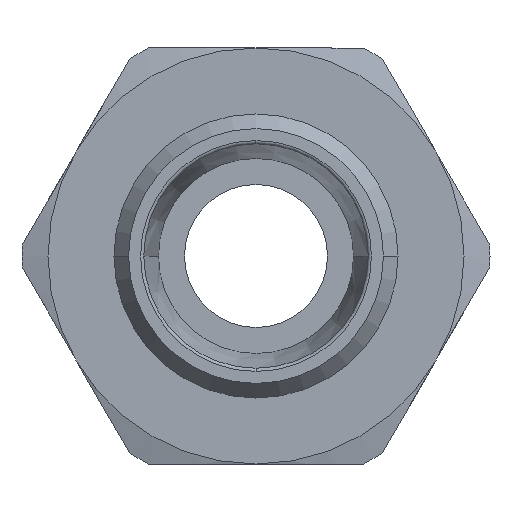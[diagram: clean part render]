
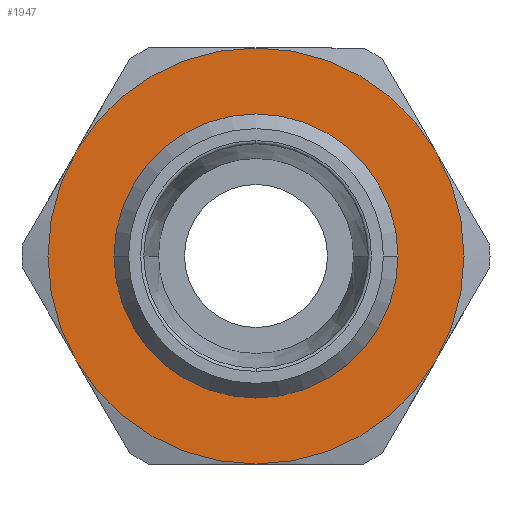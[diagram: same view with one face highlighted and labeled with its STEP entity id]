
A CAD part, left-side view. The second image highlights one B-rep face of the part: STEP entity #1947.
In plain terms, the highlighted planar face has unit normal (-1, 0, 0) as drawn and (0, 0, 1) by its records, which use the part's own axes.
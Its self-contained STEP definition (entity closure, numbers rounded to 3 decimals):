
#857=CARTESIAN_POINT('',(-10.8,0.,3.5));
#858=VERTEX_POINT('',#857);
#884=CARTESIAN_POINT('',(10.8,0.,3.5));
#885=VERTEX_POINT('',#884);
#893=CARTESIAN_POINT('',(0.,0.,3.5));
#894=DIRECTION('',(0.0,0.0,1.0));
#895=DIRECTION('',(-1.0,0.0,0.0));
#896=AXIS2_PLACEMENT_3D('',#893,#894,#895);
#897=CIRCLE('',#896,10.8);
#898=EDGE_CURVE('',#885,#858,#897,.T.);
#1827=CARTESIAN_POINT('',(0.,-10.8,3.5));
#1828=VERTEX_POINT('',#1827);
#1829=CARTESIAN_POINT('',(0.,0.,3.5));
#1830=DIRECTION('',(0.0,0.0,1.0));
#1831=DIRECTION('',(-1.0,0.0,0.0));
#1832=AXIS2_PLACEMENT_3D('',#1829,#1830,#1831);
#1833=CIRCLE('',#1832,10.8);
#1834=EDGE_CURVE('',#858,#1828,#1833,.T.);
#1836=CARTESIAN_POINT('',(0.,0.,3.5));
#1837=DIRECTION('',(0.0,0.0,1.0));
#1838=DIRECTION('',(-1.0,0.0,0.0));
#1839=AXIS2_PLACEMENT_3D('',#1836,#1837,#1838);
#1840=CIRCLE('',#1839,10.8);
#1841=EDGE_CURVE('',#1828,#885,#1840,.T.);
#1881=CARTESIAN_POINT('',(0.0,0.,3.5));
#1882=DIRECTION('',(0.0,0.0,1.0));
#1883=DIRECTION('',(1.0,0.0,0.0));
#1884=AXIS2_PLACEMENT_3D('',#1881,#1882,#1883);
#1885=PLANE('',#1884);
#1886=CARTESIAN_POINT('',(8.,-13.856,3.5));
#1887=VERTEX_POINT('',#1886);
#1888=CARTESIAN_POINT('',(16.,0.0,3.5));
#1889=VERTEX_POINT('',#1888);
#1890=CARTESIAN_POINT('',(0.,0.0,3.5));
#1891=DIRECTION('',(0.0,0.0,1.0));
#1892=DIRECTION('',(1.0,0.0,0.0));
#1893=AXIS2_PLACEMENT_3D('',#1890,#1891,#1892);
#1894=CIRCLE('',#1893,16.0);
#1895=EDGE_CURVE('',#1887,#1889,#1894,.T.);
#1896=ORIENTED_EDGE('',*,*,#1895,.T.);
#1897=CARTESIAN_POINT('',(8.,13.856,3.5));
#1898=VERTEX_POINT('',#1897);
#1899=CARTESIAN_POINT('',(0.,0.0,3.5));
#1900=DIRECTION('',(0.0,0.0,1.0));
#1901=DIRECTION('',(1.0,0.0,0.0));
#1902=AXIS2_PLACEMENT_3D('',#1899,#1900,#1901);
#1903=CIRCLE('',#1902,16.0);
#1904=EDGE_CURVE('',#1889,#1898,#1903,.T.);
#1905=ORIENTED_EDGE('',*,*,#1904,.T.);
#1906=CARTESIAN_POINT('',(-8.,13.856,3.5));
#1907=VERTEX_POINT('',#1906);
#1908=CARTESIAN_POINT('',(0.,0.0,3.5));
#1909=DIRECTION('',(0.0,0.0,1.0));
#1910=DIRECTION('',(1.0,0.0,0.0));
#1911=AXIS2_PLACEMENT_3D('',#1908,#1909,#1910);
#1912=CIRCLE('',#1911,16.0);
#1913=EDGE_CURVE('',#1898,#1907,#1912,.T.);
#1914=ORIENTED_EDGE('',*,*,#1913,.T.);
#1915=CARTESIAN_POINT('',(-16.0,0.,3.5));
#1916=VERTEX_POINT('',#1915);
#1917=CARTESIAN_POINT('',(0.,0.0,3.5));
#1918=DIRECTION('',(0.0,0.0,1.0));
#1919=DIRECTION('',(1.0,0.0,0.0));
#1920=AXIS2_PLACEMENT_3D('',#1917,#1918,#1919);
#1921=CIRCLE('',#1920,16.0);
#1922=EDGE_CURVE('',#1907,#1916,#1921,.T.);
#1923=ORIENTED_EDGE('',*,*,#1922,.T.);
#1924=CARTESIAN_POINT('',(-8.0,-13.856,3.5));
#1925=VERTEX_POINT('',#1924);
#1926=CARTESIAN_POINT('',(0.,0.0,3.5));
#1927=DIRECTION('',(0.0,0.0,1.0));
#1928=DIRECTION('',(1.0,0.0,0.0));
#1929=AXIS2_PLACEMENT_3D('',#1926,#1927,#1928);
#1930=CIRCLE('',#1929,16.0);
#1931=EDGE_CURVE('',#1916,#1925,#1930,.T.);
#1932=ORIENTED_EDGE('',*,*,#1931,.T.);
#1933=CARTESIAN_POINT('',(0.,0.0,3.5));
#1934=DIRECTION('',(0.0,0.0,1.0));
#1935=DIRECTION('',(1.0,0.0,0.0));
#1936=AXIS2_PLACEMENT_3D('',#1933,#1934,#1935);
#1937=CIRCLE('',#1936,16.0);
#1938=EDGE_CURVE('',#1925,#1887,#1937,.T.);
#1939=ORIENTED_EDGE('',*,*,#1938,.T.);
#1940=EDGE_LOOP('',(#1896,#1905,#1914,#1923,#1932,#1939));
#1941=FACE_OUTER_BOUND('',#1940,.T.);
#1942=ORIENTED_EDGE('',*,*,#1841,.F.);
#1943=ORIENTED_EDGE('',*,*,#1834,.F.);
#1944=ORIENTED_EDGE('',*,*,#898,.F.);
#1945=EDGE_LOOP('',(#1942,#1943,#1944));
#1946=FACE_BOUND('',#1945,.T.);
#1947=ADVANCED_FACE('',(#1941,#1946),#1885,.T.);
